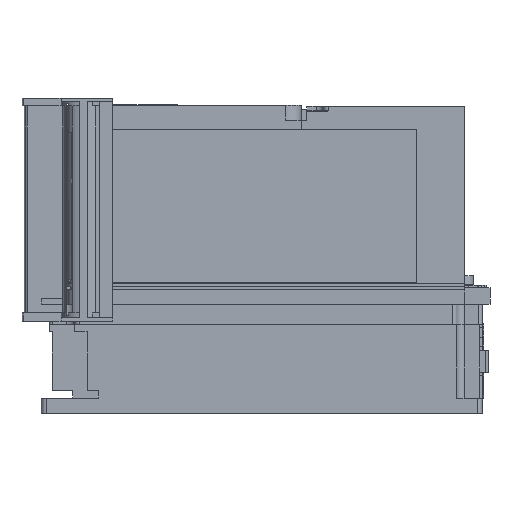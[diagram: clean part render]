
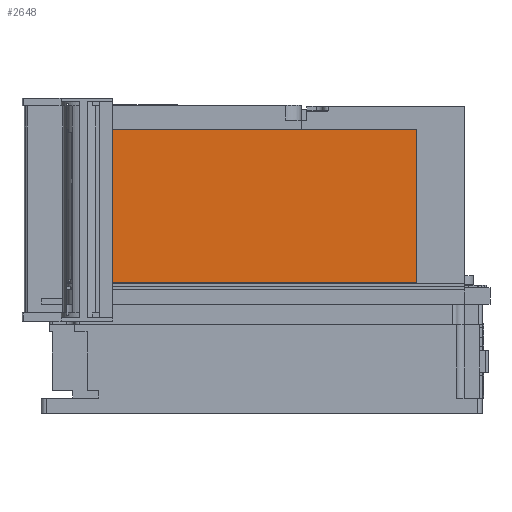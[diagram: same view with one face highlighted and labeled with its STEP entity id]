
A CAD part, left-side view. The second image highlights one B-rep face of the part: STEP entity #2648.
In plain terms, the highlighted planar face has unit normal (-1, 0, 0).
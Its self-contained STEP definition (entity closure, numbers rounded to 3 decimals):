
#2648=ADVANCED_FACE('',(#8421),#8422,.T.);
#8421=FACE_OUTER_BOUND('',#23112,.T.);
#8422=PLANE('',#23113);
#23112=EDGE_LOOP('',(#53963,#53964,#53965,#53966));
#23113=AXIS2_PLACEMENT_3D('',#53967,#53968,#53969);
#53963=ORIENTED_EDGE('',*,*,#66759,.F.);
#53964=ORIENTED_EDGE('',*,*,#66760,.F.);
#53965=ORIENTED_EDGE('',*,*,#66761,.T.);
#53966=ORIENTED_EDGE('',*,*,#66741,.T.);
#53967=CARTESIAN_POINT('',(-65.,142.0,83.0));
#53968=DIRECTION('',(-1.0,0.0,0.0));
#53969=DIRECTION('',(0.0,0.0,1.0));
#66741=EDGE_CURVE('',#80165,#80163,#80166,.F.);
#66759=EDGE_CURVE('',#80196,#80163,#80198,.F.);
#66760=EDGE_CURVE('',#80199,#80196,#80200,.T.);
#66761=EDGE_CURVE('',#80199,#80165,#80201,.T.);
#80163=VERTEX_POINT('',#105473);
#80165=VERTEX_POINT('',#105475);
#80166=LINE('',#105476,#105477);
#80196=VERTEX_POINT('',#105518);
#80198=LINE('',#105521,#105522);
#80199=VERTEX_POINT('',#105523);
#80200=LINE('',#105524,#105525);
#80201=LINE('',#105526,#105527);
#105473=CARTESIAN_POINT('',(-65.,116.0,83.0));
#105475=CARTESIAN_POINT('',(-65.,116.0,179.8));
#105476=CARTESIAN_POINT('',(-65.,116.0,307.292));
#105477=VECTOR('',#119879,1.0);
#105518=CARTESIAN_POINT('',(-65.,-95.5,83.0));
#105521=CARTESIAN_POINT('',(-65.,71.,83.0));
#105522=VECTOR('',#119907,1.0);
#105523=CARTESIAN_POINT('',(-65.,-95.5,179.8));
#105524=CARTESIAN_POINT('',(-65.,-95.5,98.75));
#105525=VECTOR('',#119908,1.0);
#105526=CARTESIAN_POINT('',(-65.,71.,179.8));
#105527=VECTOR('',#119909,1.0);
#119879=DIRECTION('',(0.0,0.0,1.0));
#119907=DIRECTION('',(0.0,-1.0,0.0));
#119908=DIRECTION('',(0.0,0.0,-1.0));
#119909=DIRECTION('',(0.0,1.0,-0.0));
